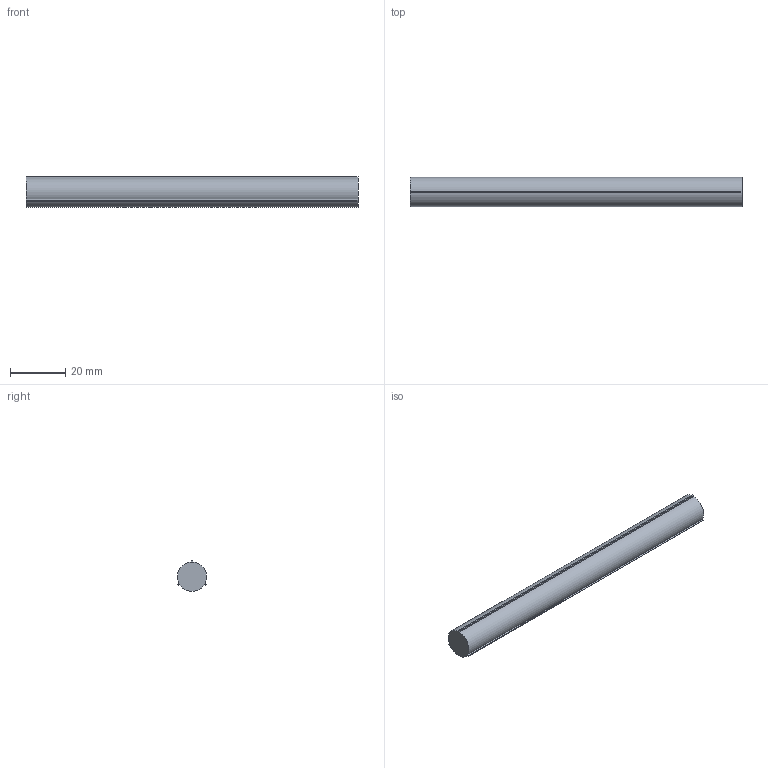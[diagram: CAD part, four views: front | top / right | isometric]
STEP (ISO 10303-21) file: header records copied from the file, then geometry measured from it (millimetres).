
FILE_DESCRIPTION(('CATIA V5 STEP Exchange'),'2;1');
FILE_NAME('C:\Users\Administrator\Desktop\导向杆\导向杆.stp','2021-10-26T07:48:25+00:00',('none'),('none'),'CATIA Version 5 Release 20 GA (IN-10)','CATIA V5 STEP AP214','none');
FILE_SCHEMA(('AUTOMOTIVE_DESIGN { 1 0 10303 214 1 1 1 1 }'));
Length unit declared in the file: millimetre
Products named in the file (1): 杆
Bounding box: 120 x 10.6 x 11.1 mm (x, y, z)
Volume: 10679.7 mm3; surface area: 4534.5 mm2
Topology: 1 solids, 1 shells, 14 faces, 36 edges, 24 vertices
Faces by surface type: plane 8, cylinder 6
Entity records: 432 total; most frequent: CARTESIAN_POINT 73, ORIENTED_EDGE 72, DIRECTION 60, EDGE_CURVE 36, AXIS2_PLACEMENT_3D 25, VECTOR 24, LINE 24, VERTEX_POINT 24
